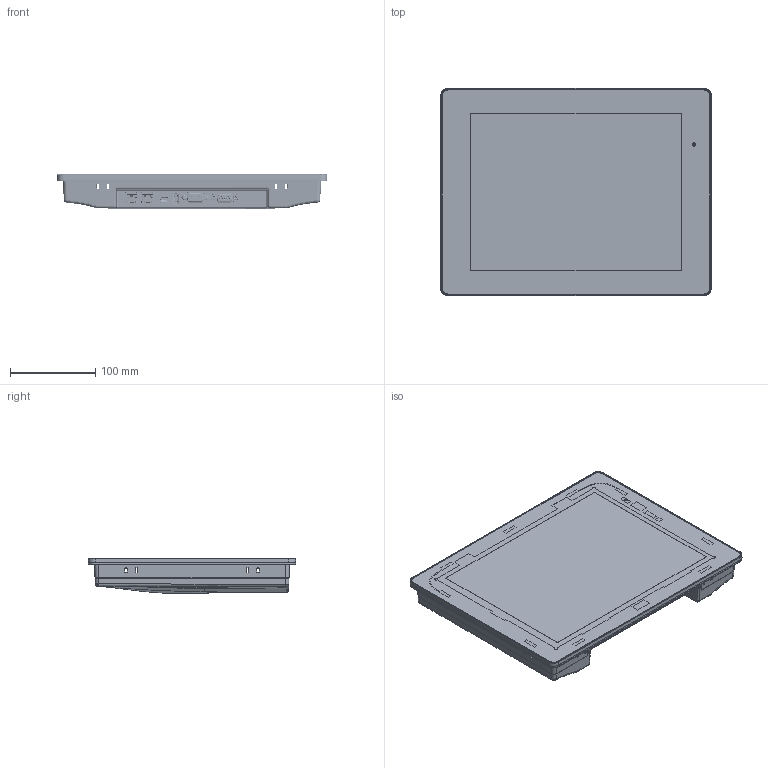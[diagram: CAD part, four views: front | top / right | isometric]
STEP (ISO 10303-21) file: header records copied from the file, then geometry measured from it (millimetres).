
FILE_DESCRIPTION (( 'STEP AP214' ), '1' );
FILE_NAME ('cMT2128X.STEP', '2023-10-24T09:29:33', ( '' ), ( '' ), 'SwSTEP 2.0', 'SolidWorks 2019', '' );
FILE_SCHEMA (( 'AUTOMOTIVE_DESIGN' ));
Length unit declared in the file: millimetre
Products named in the file (35): FEZ8121E0_191203; S304611050.STEP; M3046.STEP; D-SUB (M); 3046105600.STEP; FUSE (RZPTF7820)-230202; MI3046.STEP; FES812100_191203; J099110351-Y-G; FEBCC8X10_220905; L3046.STEP; Micro SD board_221024; Micro SD; GVCC8XY00_220706_Pantone 400C; J099110351-Y-G.STEP; I3046.STEP; DN6110V01; PMEPR2230; PMC2CSD11-221018; D-SUB (F); PMC2C9X11-221018; L3046-2.STEP; P23046-S.STEP; FG-0011AAAS09A; FES812101_191203; Power (DN5M03P00)-230202; User Library-Micro SD Card; FEFCC8X10_220714; cMT2128X; P13046.STEP
Assembly tree (57 placements, depth 7):
  cMT2128X
    FEFCC8X10_220714
    FEBCC8X10_220905
    FEZ8121E0_191203
    GVCC8XY00_220706_Pantone 400C
    FES812101_191203  x2
    FES812100_191203  x2
    PMC2C9X11-221018
      DN6110V01
      D-SUB (F)
      D-SUB (M)
      J099110351-Y-G
        J099110351-Y-G.STEP
          3046105600.STEP
            MI3046.STEP
              M3046.STEP
              I3046.STEP
            L3046.STEP
            L3046-2.STEP
            P23046-S.STEP  x4
            P13046.STEP  x4
          S304611050.STEP
      J099110351-Y-G
        J099110351-Y-G.STEP
          3046105600.STEP
            MI3046.STEP
              M3046.STEP
              I3046.STEP
            L3046.STEP
            L3046-2.STEP
            P23046-S.STEP  x4
            P13046.STEP  x4
          S304611050.STEP
    PMEPR2230
      PMEPR2230
      FUSE (RZPTF7820)-230202
      Power (DN5M03P00)-230202
    PMC2CSD11-221018
      Micro SD board_221024
      Micro SD
        FG-0011AAAS09A
        User Library-Micro SD Card  x3
Bounding box: 317.13 x 243.13 x 41.09 mm (x, y, z)
Volume: 382948.3 mm3; surface area: 514340.2 mm2
Topology: 81 solids, 82 shells, 8566 faces, 22897 edges, 14668 vertices
Faces by surface type: plane 5533, cylinder 1655, bspline 665, cone 435, torus 249, sphere 29
Entity records: 290537 total; most frequent: CARTESIAN_POINT 105256, ORIENTED_EDGE 38858, DIRECTION 31988, EDGE_CURVE 19429, VECTOR 12892, LINE 12892, VERTEX_POINT 12573, AXIS2_PLACEMENT_3D 9548
